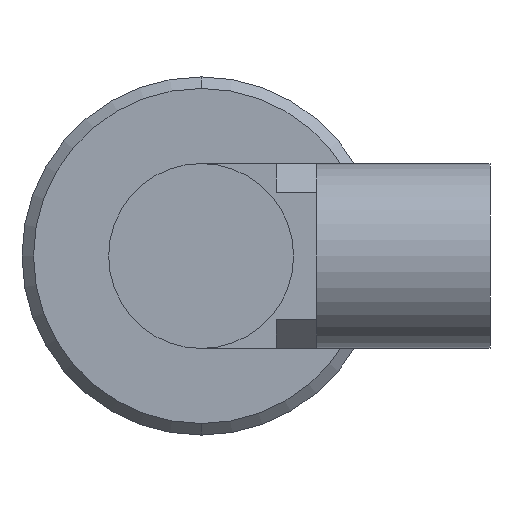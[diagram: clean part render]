
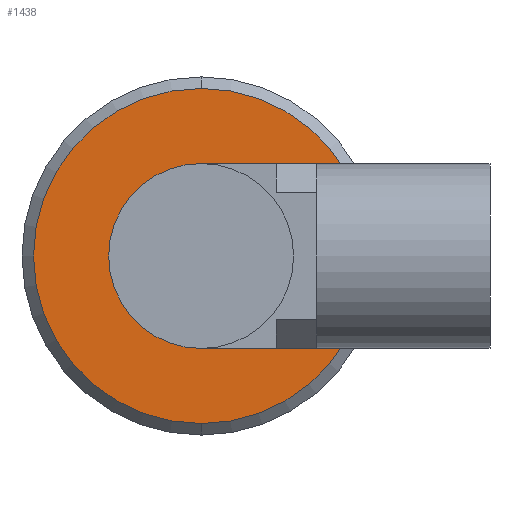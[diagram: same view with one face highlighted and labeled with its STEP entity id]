
A CAD part, left-side view. The second image highlights one B-rep face of the part: STEP entity #1438.
In plain terms, the highlighted planar face has unit normal (-1, 0, 0).
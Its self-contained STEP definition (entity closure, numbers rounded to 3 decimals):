
#3 = CARTESIAN_POINT ( 'NONE',  ( 32.5, 0., 0. ) ) ;
#28 = DIRECTION ( 'NONE',  ( 0., 0., 1. ) ) ;
#60 = EDGE_CURVE ( 'NONE', #106, #144, #192, .T. ) ;
#62 = CARTESIAN_POINT ( 'NONE',  ( 32.5, 8., 0. ) ) ;
#66 = DIRECTION ( 'NONE',  ( 0., 0., -1. ) ) ;
#105 = EDGE_CURVE ( 'NONE', #110, #667, #1084, .T. ) ;
#106 = VERTEX_POINT ( 'NONE', #1303 ) ;
#110 = VERTEX_POINT ( 'NONE', #470 ) ;
#121 = DIRECTION ( 'NONE',  ( 0., 0., 1. ) ) ;
#144 = VERTEX_POINT ( 'NONE', #1190 ) ;
#155 = AXIS2_PLACEMENT_3D ( 'NONE', #916, #225, #1037 ) ;
#187 = AXIS2_PLACEMENT_3D ( 'NONE', #3, #818, #121 ) ;
#192 = CIRCLE ( 'NONE', #187, 8. ) ;
#193 = AXIS2_PLACEMENT_3D ( 'NONE', #1391, #720, #28 ) ;
#201 = ORIENTED_EDGE ( 'NONE', *, *, #1183, .T. ) ;
#225 = DIRECTION ( 'NONE',  ( -1., 0., 0. ) ) ;
#244 = CIRCLE ( 'NONE', #155, 14.5 ) ;
#333 = CARTESIAN_POINT ( 'NONE',  ( 32.5, 0., -14.5 ) ) ;
#450 = AXIS2_PLACEMENT_3D ( 'NONE', #62, #753, #66 ) ;
#470 = CARTESIAN_POINT ( 'NONE',  ( 32.5, 0., 14.5 ) ) ;
#513 = CARTESIAN_POINT ( 'NONE',  ( 32.5, 0., 0. ) ) ;
#563 = ORIENTED_EDGE ( 'NONE', *, *, #865, .F. ) ;
#663 = DIRECTION ( 'NONE',  ( 0., 0., 1. ) ) ;
#667 = VERTEX_POINT ( 'NONE', #333 ) ;
#670 = FACE_BOUND ( 'NONE', #710, .T. ) ;
#710 = EDGE_LOOP ( 'NONE', ( #563, #1134 ) ) ;
#720 = DIRECTION ( 'NONE',  ( -1., 0., 0. ) ) ;
#732 = AXIS2_PLACEMENT_3D ( 'NONE', #513, #1301, #663 ) ;
#753 = DIRECTION ( 'NONE',  ( 1., 0., 0. ) ) ;
#791 = CIRCLE ( 'NONE', #193, 8. ) ;
#818 = DIRECTION ( 'NONE',  ( -1., 0., 0. ) ) ;
#839 = EDGE_LOOP ( 'NONE', ( #201, #931 ) ) ;
#865 = EDGE_CURVE ( 'NONE', #144, #106, #791, .T. ) ;
#916 = CARTESIAN_POINT ( 'NONE',  ( 32.5, 0., 0. ) ) ;
#931 = ORIENTED_EDGE ( 'NONE', *, *, #105, .T. ) ;
#1010 = FACE_OUTER_BOUND ( 'NONE', #839, .T. ) ;
#1037 = DIRECTION ( 'NONE',  ( 0., 0., 1. ) ) ;
#1084 = CIRCLE ( 'NONE', #732, 14.5 ) ;
#1134 = ORIENTED_EDGE ( 'NONE', *, *, #60, .F. ) ;
#1183 = EDGE_CURVE ( 'NONE', #667, #110, #244, .T. ) ;
#1190 = CARTESIAN_POINT ( 'NONE',  ( 32.5, 0., 8. ) ) ;
#1301 = DIRECTION ( 'NONE',  ( -1., 0., 0. ) ) ;
#1303 = CARTESIAN_POINT ( 'NONE',  ( 32.5, 0., -8. ) ) ;
#1316 = PLANE ( 'NONE',  #450 ) ;
#1391 = CARTESIAN_POINT ( 'NONE',  ( 32.5, 0., 0. ) ) ;
#1438 = ADVANCED_FACE ( 'NONE', ( #670, #1010 ), #1316, .F. ) ;
